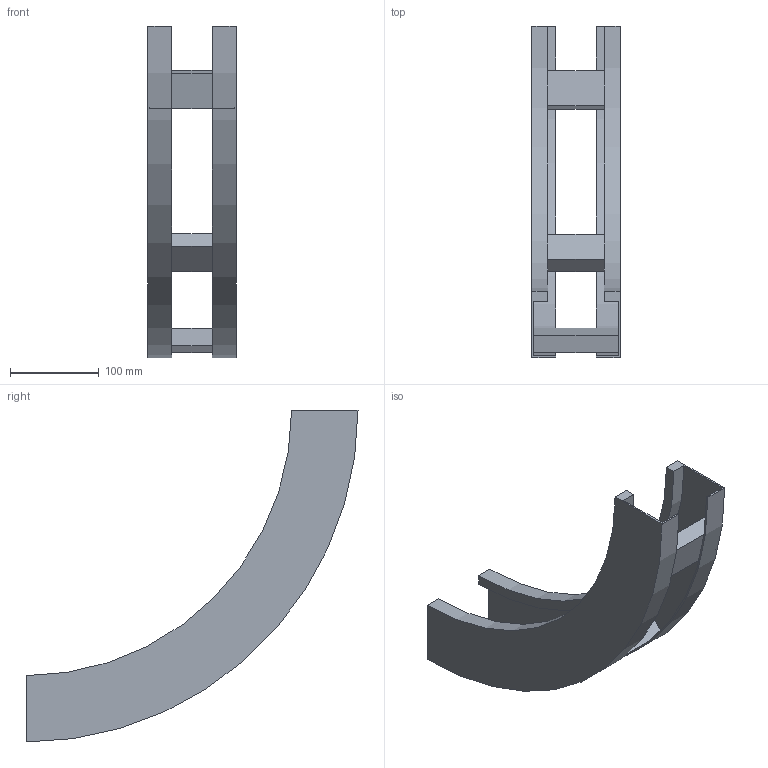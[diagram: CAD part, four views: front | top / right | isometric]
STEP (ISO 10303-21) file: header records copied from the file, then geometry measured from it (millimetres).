
FILE_DESCRIPTION (( 'STEP AP214' ), '1' );
FILE_NAME ('B2X30B3C100XX.step', '2025-03-20T10:25:08', ( '' ), ( '' ), 'SwSTEP 2.0', 'SolidWorks 2023', '' );
FILE_SCHEMA (( 'AUTOMOTIVE_DESIGN' ));
Length unit declared in the file: millimetre
Products named in the file (3): B2_LONGH.SALITA_90°_H75_R300; TRAVERSINO_100; B2X30B3C100XX
Assembly tree (5 placements, depth 2):
  B2X30B3C100XX
    B2_LONGH.SALITA_90°_H75_R300  x2
    TRAVERSINO_100  x3
Bounding box: 100 x 375 x 375 mm (x, y, z)
Volume: 635645.8 mm3; surface area: 294070.5 mm2
Topology: 5 solids, 5 shells, 38 faces, 84 edges, 56 vertices
Faces by surface type: plane 30, cylinder 8
Entity records: 560 total; most frequent: DIRECTION 92, CARTESIAN_POINT 84, ORIENTED_EDGE 72, EDGE_CURVE 36, AXIS2_PLACEMENT_3D 32, VECTOR 28, LINE 28, VERTEX_POINT 24
